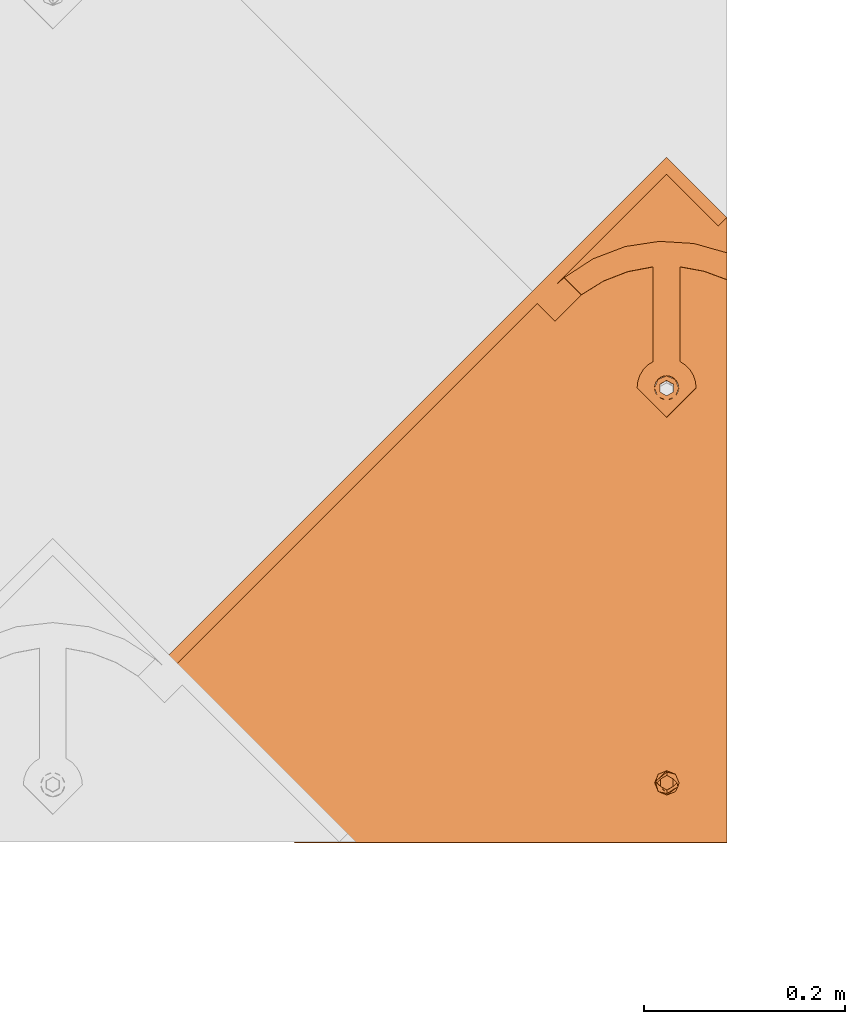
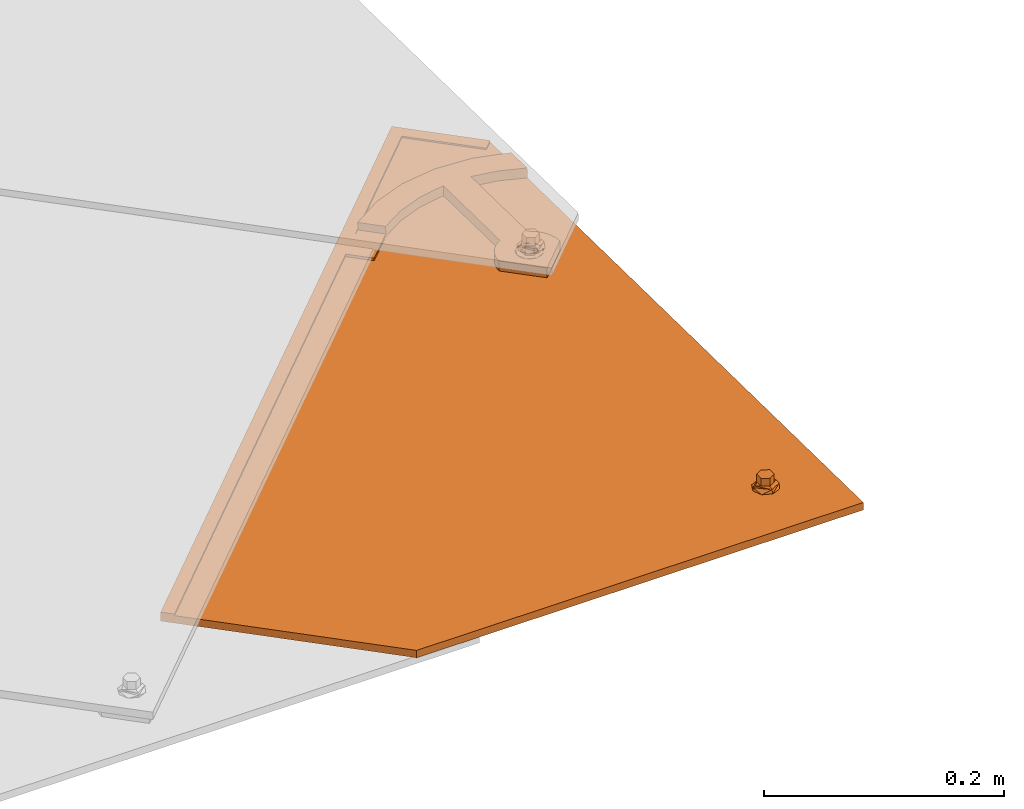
# One storey, part 105 of 133: 1 proxy.
"""IFC2X3 building model written with IfcOpenShell, lengths in millimetres."""

from ifc_helpers import new_model, entity, si_unit, converted_unit, derived_unit, direction, frame, origin, place, context, subcontext, project, spatial, faceted_brep, source, transform, mapped, material, material_list, type_object, type_shapes, element, save


model = new_model("IFC2X3")

# Units and contexts
model_context = context("Model", 3, precision=0.01, world=origin(), true_north=direction((6.12303176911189e-17, 1.0)))
body_context = subcontext(model_context, "Body", "Model", "MODEL_VIEW")
ifc_project = project(units=[si_unit("LENGTHUNIT", "METRE", prefix="MILLI"), si_unit("AREAUNIT", "SQUARE_METRE"), si_unit("VOLUMEUNIT", "CUBIC_METRE"), converted_unit("PLANEANGLEUNIT", "DEGREE", entity("IfcRatioMeasure", 0.0174532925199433), si_unit("PLANEANGLEUNIT", "RADIAN"), dimensions=[0, 0, 0, 0, 0, 0, 0]), si_unit("MASSUNIT", "GRAM", prefix="KILO"), derived_unit("MASSDENSITYUNIT", [(si_unit("MASSUNIT", "GRAM", prefix="KILO"), 1), (si_unit("LENGTHUNIT", "METRE"), -3)]), si_unit("TIMEUNIT", "SECOND"), si_unit("FREQUENCYUNIT", "HERTZ"), si_unit("THERMODYNAMICTEMPERATUREUNIT", "DEGREE_CELSIUS"), derived_unit("THERMALTRANSMITTANCEUNIT", [(si_unit("MASSUNIT", "GRAM", prefix="KILO"), 1), (si_unit("THERMODYNAMICTEMPERATUREUNIT", "KELVIN"), -1), (si_unit("TIMEUNIT", "SECOND"), -3)]), derived_unit("VOLUMETRICFLOWRATEUNIT", [(si_unit("LENGTHUNIT", "METRE"), 3), (si_unit("TIMEUNIT", "SECOND"), -1)]), si_unit("ELECTRICCURRENTUNIT", "AMPERE"), si_unit("ELECTRICVOLTAGEUNIT", "VOLT"), si_unit("POWERUNIT", "WATT"), si_unit("FORCEUNIT", "NEWTON", prefix="KILO"), si_unit("ILLUMINANCEUNIT", "LUX"), si_unit("LUMINOUSFLUXUNIT", "LUMEN"), si_unit("LUMINOUSINTENSITYUNIT", "CANDELA"), derived_unit("USERDEFINED", [(si_unit("MASSUNIT", "GRAM", prefix="KILO"), -1), (si_unit("LENGTHUNIT", "METRE"), -2), (si_unit("TIMEUNIT", "SECOND"), 3), (si_unit("LUMINOUSFLUXUNIT", "LUMEN"), 1)]), derived_unit("LINEARVELOCITYUNIT", [(si_unit("LENGTHUNIT", "METRE"), 1), (si_unit("TIMEUNIT", "SECOND"), -1)]), si_unit("PRESSUREUNIT", "PASCAL"), derived_unit("USERDEFINED", [(si_unit("LENGTHUNIT", "METRE"), -2), (si_unit("MASSUNIT", "GRAM", prefix="KILO"), 1), (si_unit("TIMEUNIT", "SECOND"), -2)])], contexts=[model_context])

# Site, building, storey
site_placement = place(None, origin())
site = spatial("IfcSite", under=ifc_project, at=site_placement, Name="Default", CompositionType="ELEMENT")
building_placement = place(site_placement, origin())
building = spatial("IfcBuilding", under=site, at=building_placement, CompositionType="ELEMENT")
storey_placement = place(building_placement, origin())
storey = spatial("IfcBuildingStorey", under=building, at=storey_placement, Name="Level 1", CompositionType="ELEMENT", Elevation=0.0)

# Proxy
ifc_material_1 = material(Name="Rubber - Sunstyle - Black")
ifc_material_2 = material(Name="Glass - Sunstyle - Tainted Black")
ifc_material_list_1 = material_list([ifc_material_1, ifc_material_2])
ifc_material_list_2 = material_list([ifc_material_1, ifc_material_2])
building_element_proxy_type = type_object("IfcBuildingElementProxyType", Name="Corner Bottom Big Right - Black", PredefinedType="NOTDEFINED", material=ifc_material_list_2)
shared_shape = source(origin(), body_context, "Body", "Brep", [
    faceted_brep([(0.270009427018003, -2.025866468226, -4.01619789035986), (-5.50419340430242, -5.35913660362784, -3.96037390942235), (-5.50419340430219, -4.99082751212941, 18.0314954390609), (0.270009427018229, -1.65755737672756, 17.9756714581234), (-5.50419340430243, -12.0256768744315, -3.84872594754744), (-5.5041934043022, -11.6573677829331, 18.1431434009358), (0.270009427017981, -15.3589470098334, -3.79290196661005), (0.270009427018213, -14.990637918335, 18.1989673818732), (6.04421225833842, -12.0256768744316, -3.84872594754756), (6.04421225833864, -11.6573677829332, 18.1431434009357), (6.04421225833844, -5.35913660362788, -3.96037390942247), (6.04421225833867, -4.99082751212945, 18.0314954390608), (-8.3336947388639, -16.9265954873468, 18.2313898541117), (0.27000942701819, -20.4898667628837, 18.2910657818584), (-11.8974656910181, -8.32409764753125, 18.0873194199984), (-8.33369473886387, 0.278400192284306, 17.9432489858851), (0.270009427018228, 3.84167146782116, 17.8835730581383), (8.87371359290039, 0.278400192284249, 17.9432489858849), (12.4374845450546, -8.32409764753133, 18.0873194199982), (8.87371359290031, -16.9265954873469, 18.2313898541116), (-11.1602134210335, -6.95050198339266, 20.4858706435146), (-9.50050407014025, -8.25322861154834, 22.3189355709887), (0.270009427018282, -0.940007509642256, 22.9603444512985), (0.27000942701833, 0.300490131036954, 22.3799978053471), (0.270009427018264, 2.4580409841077, 21.3706227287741), (-6.05323627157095, -4.59022324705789, 23.0214764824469), (-6.05323627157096, -11.8906547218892, 23.1437405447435), (0.270009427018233, -18.990246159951, 21.7298281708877), (0.270009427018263, -15.5408704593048, 23.2048725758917), (11.2551842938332, -12.0411541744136, 20.3827540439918), (10.3938597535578, -8.25726753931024, 22.077768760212), (6.59325512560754, -4.59022324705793, 23.0214764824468), (6.5932551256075, -11.8906547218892, 23.1437405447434), (-6.05323627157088, -11.7566262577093, 31.1466287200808), (0.270009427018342, -15.4068419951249, 31.207760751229), (0.270009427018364, -8.10641052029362, 31.0854966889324), (-6.05323627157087, -4.456194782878, 31.0243646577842), (6.59325512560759, -11.7566262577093, 31.1466287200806), (6.59325512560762, -4.45619478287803, 31.024364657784), (0.270009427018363, -0.805979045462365, 30.9632326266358), (0.270009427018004, -8.69240673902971, -3.90454992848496)], [[[0, 1, 2, 3]], [[1, 4, 5, 2]], [[4, 6, 7, 5]], [[6, 8, 9, 7]], [[8, 10, 11, 9]], [[10, 0, 3, 11]], [[12, 7, 13]], [[7, 12, 5]], [[14, 5, 12]], [[5, 14, 2]], [[15, 2, 14]], [[3, 2, 15]], [[15, 16, 3]], [[16, 17, 3]], [[11, 3, 17]], [[11, 17, 18]], [[9, 11, 18]], [[18, 19, 9]], [[7, 9, 19]], [[19, 13, 7]], [[15, 20, 16]], [[21, 22, 23, 24]], [[22, 21, 25]], [[20, 14, 12]], [[15, 14, 20]], [[25, 21, 26]], [[20, 24, 16]], [[12, 13, 27]], [[12, 27, 20]], [[21, 28, 26]], [[21, 27, 28]], [[20, 21, 24]], [[20, 27, 21]], [[19, 29, 13]], [[30, 23, 31]], [[30, 28, 27]], [[24, 23, 30]], [[29, 27, 13]], [[19, 18, 29]], [[29, 30, 27]], [[29, 17, 24]], [[24, 17, 16]], [[31, 32, 30]], [[23, 22, 31]], [[28, 30, 32]], [[29, 24, 30]], [[29, 18, 17]], [[33, 34, 35]], [[35, 36, 33]], [[34, 37, 35]], [[38, 35, 37]], [[35, 38, 39]], [[35, 39, 36]], [[40, 6, 4]], [[4, 1, 40]], [[1, 0, 40]], [[40, 8, 6]], [[0, 10, 40]], [[8, 40, 10]], [[22, 25, 36, 39]], [[25, 26, 33, 36]], [[26, 28, 34, 33]], [[28, 32, 37, 34]], [[32, 31, 38, 37]], [[31, 22, 39, 38]]]),
    faceted_brep([(-518.247351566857, 79.9143812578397, 14.9652572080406), (-518.247351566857, 79.9394990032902, 16.4650468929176), (-526.732038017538, 88.4241854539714, 16.3229495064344), (-526.732038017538, 88.399067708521, 14.8231598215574), (-0.00032251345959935, 614.98308737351, 6.00418773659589), (60.1037538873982, 554.895864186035, 7.01049921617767), (51.6190674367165, 546.411177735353, 7.15259660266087), (-0.000322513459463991, 598.016093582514, 6.28834266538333), (-0.000322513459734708, 615.00820511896, 7.50397742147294), (-0.000322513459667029, 598.041211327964, 7.78813235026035), (51.6190674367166, 546.436295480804, 8.65238628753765), (60.1037538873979, 554.920981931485, 8.51028890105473)], [[[0, 1, 2, 3]], [[0, 3, 4, 5, 6, 7]], [[3, 2, 8, 4]], [[2, 1, 9, 10, 11, 8]], [[1, 0, 7, 9]], [[6, 5, 11, 10]], [[4, 8, 11, 5]], [[9, 7, 6, 10]]]),
    faceted_brep([(0.0, 372.774440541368, 20.3195200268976), (0.0, 377.273809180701, 20.2441667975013), (-8.60370416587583, 376.337711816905, 20.2598440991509), (8.60370416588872, 376.337711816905, 20.2598440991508), (6.64022859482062, 381.107009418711, 20.1799702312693), (12.1674751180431, 384.940209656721, 20.1157736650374), (6.64022859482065, 388.773409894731, 20.0515770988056), (8.6037041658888, 393.542707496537, 19.9717032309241), (0.0, 392.606610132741, 19.9873805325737), (0.0, 397.105978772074, 19.9120273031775), (-8.60370416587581, 393.542707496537, 19.9717032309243), (-6.64022859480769, 388.773409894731, 20.0515770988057), (-12.1674751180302, 384.940209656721, 20.1157736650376), (-6.6402285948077, 381.107009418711, 20.1799702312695), (-6.6402282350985, 388.505487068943, 4.05382046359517), (0.0, 392.338687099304, 3.98962390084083), (-6.64022823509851, 380.839087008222, 4.18221358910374), (0.0, 377.005886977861, 4.24641015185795), (6.64022823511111, 380.839087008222, 4.1822135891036), (6.64022823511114, 388.505487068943, 4.05382046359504), (-8.603704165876, 376.069789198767, 4.26208746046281), (0.0, 372.50651792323, 4.32176338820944), (-12.1674751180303, 384.672287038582, 4.11801702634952), (-8.60370416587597, 393.274784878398, 3.97394659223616), (0.0, 396.838056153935, 3.91427066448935), (8.60370416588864, 393.274784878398, 3.97394659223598), (12.1674751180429, 384.672287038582, 4.11801702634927), (8.60370416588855, 376.069789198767, 4.26208746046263)], [[[0, 1, 2]], [[1, 0, 3]], [[3, 4, 1]], [[4, 3, 5]], [[6, 4, 5]], [[5, 7, 6]], [[7, 8, 6]], [[8, 7, 9]], [[8, 9, 10]], [[10, 11, 8]], [[12, 11, 10]], [[2, 13, 12]], [[12, 13, 11]], [[13, 2, 1]], [[8, 11, 14, 15]], [[11, 13, 16, 14]], [[13, 1, 17, 16]], [[1, 4, 18, 17]], [[4, 6, 19, 18]], [[6, 8, 15, 19]], [[20, 17, 21]], [[17, 20, 16]], [[22, 16, 20]], [[14, 16, 22]], [[23, 14, 22]], [[15, 14, 23]], [[23, 24, 15]], [[24, 25, 15]], [[19, 15, 25]], [[19, 25, 26]], [[26, 18, 19]], [[26, 27, 18]], [[17, 18, 27]], [[27, 21, 17]], [[24, 23, 10, 9]], [[10, 23, 22, 12]], [[20, 21, 0, 2]], [[20, 2, 12, 22]], [[21, 27, 3, 0]], [[3, 27, 26, 5]], [[25, 24, 9, 7]], [[25, 7, 5, 26]]]),
    faceted_brep([(-10.3923048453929, 390.78484910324, 9.75895037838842), (-8.48528137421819, 393.269782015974, 9.7173339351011), (-0.00032251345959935, 614.983087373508, 6.0041877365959), (-11.5911099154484, 387.891083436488, 9.8074137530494), (-6.0, 395.176538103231, 9.68540051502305), (-3.10582854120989, 396.37517508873, 9.6653263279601), (60.1037538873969, 554.895864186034, 7.01049921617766), (0.0, 396.784007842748, 9.65847939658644), (3.1058285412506, 396.37517508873, 9.6653263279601), (6.0, 395.176538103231, 9.68540051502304), (8.48528137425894, 393.269782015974, 9.7173339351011), (10.3923048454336, 390.784849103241, 9.75895037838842), (11.5911099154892, 387.891083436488, 9.8074137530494), (12.0, 384.785690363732, 9.8594213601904), (11.5911099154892, 381.680297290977, 9.9114289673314), (60.103753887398, -67.933460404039, 17.4413406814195), (10.3923048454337, 378.786531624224, 9.95989234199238), (6.58173564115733, -3.94243384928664, 16.369650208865), (8.48528137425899, 376.301598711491, 10.0015087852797), (5.31038666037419, -2.28581190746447, 16.3419059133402), (6.0, 374.394842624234, 10.0334422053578), (3.65353241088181, -1.01464118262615, 16.3206169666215), (3.10582854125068, 373.196205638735, 10.0535163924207), (1.72408477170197, -0.215549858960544, 16.3072341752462), (0.0, 372.787372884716, 10.0603633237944), (-0.346467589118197, 0.0570053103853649, 16.3026695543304), (-2.41701994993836, -0.215549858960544, 16.3072341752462), (-3.10582854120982, 373.196205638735, 10.0535163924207), (-4.34646758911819, -1.01464118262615, 16.3206169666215), (-6.0, 374.394842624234, 10.0334422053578), (-6.00332183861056, -2.28581190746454, 16.3419059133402), (-8.48528137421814, 376.301598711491, 10.0015087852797), (-370.355661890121, -67.9334604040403, 17.4413406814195), (-10.3923048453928, 378.786531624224, 9.95989234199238), (-526.732038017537, 88.3990677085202, 14.8231598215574), (-11.5911099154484, 381.680297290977, 9.9114289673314), (-12.0, 384.785690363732, 9.8594213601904), (-7.27467081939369, -3.94243384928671, 16.369650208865), (-8.07387419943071, -5.87161096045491, 16.4019591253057), (-8.34646758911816, -7.94187300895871, 16.4366308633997), (-8.0738741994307, -10.0121350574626, 16.4713026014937), (-7.27467081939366, -11.9413121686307, 16.5036115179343), (-6.00332183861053, -13.5979341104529, 16.5313558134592), (-4.34646758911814, -14.8691048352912, 16.5526447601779), (-2.41701994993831, -15.6681961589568, 16.5660275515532), (7.38093902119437, -5.87161096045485, 16.4019591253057), (7.65353241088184, -7.94187300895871, 16.4366308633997), (7.38093902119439, -10.0121350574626, 16.4713026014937), (6.58173564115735, -11.9413121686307, 16.5036115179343), (5.31038666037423, -13.5979341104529, 16.5313558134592), (3.65353241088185, -14.8691048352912, 16.5526447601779), (1.72408477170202, -15.6681961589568, 16.5660275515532), (-0.346467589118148, -15.9407513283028, 16.570592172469), (-370.355661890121, -68.0590491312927, 9.94239225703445), (-8.0738741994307, -10.1377237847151, 8.97235417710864), (-7.27467081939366, -12.0669008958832, 9.00466309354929), (-8.34646758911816, -8.06746173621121, 8.93768243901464), (-6.00332183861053, -13.7235228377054, 9.03240738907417), (-4.34646758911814, -14.9946935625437, 9.05369633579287), (60.103753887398, -68.0590491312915, 9.94239225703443), (-8.07387419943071, -5.99719968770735, 8.90301070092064), (-7.27467081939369, -4.06802257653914, 8.87070178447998), (-6.00332183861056, -2.41140063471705, 8.8429574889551), (-8.48528137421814, 376.176009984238, 2.50256036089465), (-10.3923048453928, 378.660942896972, 2.46094391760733), (-526.732038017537, 88.2734789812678, 7.32421139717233), (-11.5911099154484, 381.554708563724, 2.41248054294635), (-12.0, 384.66010163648, 2.36047293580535), (-11.5911099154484, 387.765494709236, 2.30846532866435), (-0.00032251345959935, 614.857498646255, -1.49476068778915), (-10.3923048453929, 390.659260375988, 2.26000195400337), (-8.48528137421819, 393.144193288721, 2.21838551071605), (-6.0, 395.050949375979, 2.18645209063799), (-3.10582854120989, 396.249586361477, 2.16637790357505), (60.1037538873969, 554.770275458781, -0.488449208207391), (0.0, 396.658419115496, 2.15953097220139), (3.1058285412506, 396.249586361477, 2.16637790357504), (6.0, 395.050949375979, 2.18645209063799), (8.48528137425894, 393.144193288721, 2.21838551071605), (10.3923048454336, 390.659260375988, 2.26000195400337), (11.5911099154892, 387.765494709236, 2.30846532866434), (12.0, 384.66010163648, 2.36047293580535), (11.5911099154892, 381.554708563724, 2.41248054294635), (-2.41701994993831, -15.7937848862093, 9.06707912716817), (-0.346467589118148, -16.0663400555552, 9.07164374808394), (1.72408477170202, -15.7937848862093, 9.06707912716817), (3.65353241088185, -14.9946935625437, 9.05369633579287), (5.31038666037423, -13.7235228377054, 9.03240738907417), (6.58173564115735, -12.0669008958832, 9.00466309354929), (7.38093902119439, -10.1377237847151, 8.97235417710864), (7.65353241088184, -8.06746173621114, 8.93768243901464), (7.38093902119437, -5.99719968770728, 8.90301070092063), (6.58173564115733, -4.06802257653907, 8.87070178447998), (10.3923048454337, 378.660942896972, 2.46094391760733), (-6.0, 374.269253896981, 2.5344937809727), (-4.34646758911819, -1.14022990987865, 8.8216685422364), (-3.10582854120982, 373.070616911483, 2.55456796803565), (-2.41701994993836, -0.341138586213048, 8.8082857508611), (0.0, 372.661784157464, 2.56141489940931), (-0.346467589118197, -0.0685834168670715, 8.80372112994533), (1.72408477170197, -0.341138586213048, 8.8082857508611), (3.10582854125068, 373.070616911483, 2.55456796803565), (3.65353241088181, -1.14022990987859, 8.8216685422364), (6.0, 374.269253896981, 2.5344937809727), (5.31038666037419, -2.41140063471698, 8.8429574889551), (8.48528137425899, 376.176009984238, 2.50256036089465)], [[[0, 1, 2]], [[3, 0, 2]], [[4, 2, 1]], [[2, 4, 5]], [[6, 2, 5]], [[7, 6, 5]], [[7, 8, 6]], [[8, 9, 6]], [[10, 6, 9]], [[6, 10, 11]], [[6, 11, 12]], [[12, 13, 6]], [[13, 14, 6]], [[6, 14, 15]], [[14, 16, 15]], [[17, 15, 16]], [[18, 17, 16]], [[17, 18, 19]], [[18, 20, 19]], [[21, 19, 20]], [[20, 22, 21]], [[23, 21, 22]], [[24, 23, 22]], [[23, 24, 25]], [[26, 25, 24]], [[24, 27, 26]], [[26, 27, 28]], [[29, 28, 27]], [[28, 29, 30]], [[29, 31, 30]], [[32, 30, 31]], [[33, 32, 31]], [[33, 34, 32]], [[33, 35, 34]], [[35, 36, 34]], [[36, 3, 34]], [[3, 2, 34]], [[30, 32, 37]], [[37, 32, 38]], [[32, 39, 38]], [[39, 32, 40]], [[40, 32, 41]], [[42, 41, 32]], [[42, 32, 43]], [[43, 32, 15]], [[15, 44, 43]], [[17, 45, 15]], [[45, 46, 15]], [[47, 15, 46]], [[47, 48, 15]], [[49, 15, 48]], [[15, 49, 50]], [[50, 51, 15]], [[51, 52, 15]], [[52, 44, 15]], [[53, 54, 55]], [[54, 53, 56]], [[53, 55, 57]], [[57, 58, 53]], [[53, 58, 59]], [[60, 56, 53]], [[61, 60, 53]], [[61, 53, 62]], [[63, 62, 53]], [[64, 63, 53]], [[65, 64, 53]], [[65, 66, 64]], [[66, 65, 67]], [[67, 65, 68]], [[65, 69, 68]], [[70, 68, 69]], [[71, 70, 69]], [[72, 71, 69]], [[69, 73, 72]], [[74, 73, 69]], [[75, 73, 74]], [[76, 75, 74]], [[77, 76, 74]], [[74, 78, 77]], [[78, 74, 79]], [[80, 79, 74]], [[80, 74, 81]], [[82, 81, 74]], [[82, 74, 59]], [[59, 58, 83]], [[84, 59, 83]], [[84, 85, 59]], [[85, 86, 59]], [[87, 59, 86]], [[59, 87, 88]], [[59, 88, 89]], [[89, 90, 59]], [[90, 91, 59]], [[91, 92, 59]], [[92, 93, 59]], [[93, 82, 59]], [[94, 62, 63]], [[94, 95, 62]], [[96, 95, 94]], [[97, 95, 96]], [[96, 98, 97]], [[99, 97, 98]], [[99, 98, 100]], [[101, 100, 98]], [[102, 100, 101]], [[103, 102, 101]], [[104, 102, 103]], [[103, 105, 104]], [[105, 92, 104]], [[105, 93, 92]], [[36, 67, 68, 3]], [[3, 68, 70, 0]], [[4, 1, 71, 72]], [[70, 71, 1, 0]], [[5, 4, 72, 73]], [[75, 7, 5, 73]], [[8, 76, 77, 9]], [[9, 77, 78, 10]], [[12, 11, 79, 80]], [[78, 79, 11, 10]], [[13, 12, 80, 81]], [[8, 7, 75, 76]], [[13, 81, 82, 14]], [[14, 82, 93, 16]], [[20, 18, 105, 103]], [[93, 105, 18, 16]], [[22, 20, 103, 101]], [[98, 24, 22, 101]], [[27, 96, 94, 29]], [[29, 94, 63, 31]], [[35, 33, 64, 66]], [[63, 64, 33, 31]], [[36, 35, 66, 67]], [[27, 24, 98, 96]], [[34, 2, 69, 65]], [[32, 34, 65, 53]], [[15, 32, 53, 59]], [[6, 15, 59, 74]], [[2, 6, 74, 69]], [[39, 56, 60, 38]], [[38, 60, 61, 37]], [[28, 30, 62, 95]], [[62, 30, 37, 61]], [[26, 28, 95, 97]], [[26, 97, 99, 25]], [[25, 99, 100, 23]], [[23, 100, 102, 21]], [[17, 19, 104, 92]], [[104, 19, 21, 102]], [[45, 17, 92, 91]], [[45, 91, 90, 46]], [[46, 90, 89, 47]], [[47, 89, 88, 48]], [[50, 49, 87, 86]], [[87, 49, 48, 88]], [[51, 50, 86, 85]], [[51, 85, 84, 52]], [[52, 84, 83, 44]], [[44, 83, 58, 43]], [[41, 42, 57, 55]], [[57, 42, 43, 58]], [[40, 41, 55, 54]], [[40, 54, 56, 39]]]),
    faceted_brep([(-114.2509690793, 483.839345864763, 10.7008696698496), (-128.946713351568, 469.147722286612, 10.9469178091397), (-111.269043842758, 451.472531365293, 11.2429332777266), (-84.944396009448, 477.793488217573, 10.8021227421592), (-102.027571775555, 494.874268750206, 10.5160621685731), (-108.279973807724, 489.512620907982, 10.6058564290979), (0.0, 355.735286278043, 10.3459433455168), (0.0, 373.122276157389, 10.0547545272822), (3.10582854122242, 373.531108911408, 10.0479075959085), (-3.10582854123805, 373.531108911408, 10.0479075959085), (6.0, 374.729745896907, 10.0278334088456), (8.48528137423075, 376.636501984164, 9.99589998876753), (29.3894280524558, 385.120593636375, 9.85381256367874), (-6.0, 374.729745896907, 10.0278334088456), (-8.4852813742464, 376.636501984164, 9.99589998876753), (-29.3894280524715, 385.120593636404, 9.85381256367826), (-10.3923048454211, 379.121434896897, 9.95428354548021), (-11.5911099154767, 382.01520056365, 9.90582017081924), (-12.0, 385.120593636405, 9.85381256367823), (-28.6795527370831, 391.540108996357, 9.74630165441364), (-11.5911099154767, 388.225986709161, 9.80180495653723), (-26.5842195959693, 397.649509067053, 9.64398440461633), (-10.3923048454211, 391.119752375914, 9.75334158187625), (-23.204650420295, 403.153659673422, 9.55180357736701), (-8.48528137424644, 393.604685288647, 9.71172513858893), (-18.704106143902, 407.786665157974, 9.47421226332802), (-6.0, 395.511441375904, 9.67979171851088), (-13.3000000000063, 411.324713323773, 9.41495875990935), (-3.10582854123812, 396.710078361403, 9.65971753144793), (0.0, 397.118911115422, 9.65287060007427), (13.2999999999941, 411.324713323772, 9.41495875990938), (-13.3000000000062, 505.643535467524, 7.83535317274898), (13.2999999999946, 505.643535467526, 7.83535317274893), (-7.21723712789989, 530.953901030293, 7.41146752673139), (-41.1626974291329, 525.784666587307, 7.49803934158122), (-38.7697427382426, 500.828655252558, 7.91599043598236), (-73.2491712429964, 513.560140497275, 7.70276973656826), (-62.9243331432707, 491.42502143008, 8.07347790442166), (-84.9431983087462, 477.752822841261, 8.30245321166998), (-102.027571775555, 494.832405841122, 8.01641269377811), (-108.279973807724, 489.470757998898, 8.10620695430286), (-114.2509690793, 483.79748295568, 8.20122019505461), (-111.269043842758, 451.430668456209, 8.74328380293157), (-128.946713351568, 469.105859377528, 8.44726833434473), (27.0541674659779, 528.834391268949, 7.44696404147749), (37.2599857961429, 501.252149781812, 7.90889795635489), (60.1037538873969, 519.521858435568, 7.60292579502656), (60.1037538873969, 492.795625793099, 8.05052369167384), (3.10582854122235, 396.710078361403, 9.65971753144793), (6.0, 395.511441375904, 9.67979171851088), (18.7041061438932, 407.786665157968, 9.47421226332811), (8.48528137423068, 393.604685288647, 9.71172513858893), (23.2046504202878, 403.153659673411, 9.55180357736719), (10.3923048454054, 391.119752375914, 9.75334158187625), (26.5842195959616, 397.649509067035, 9.64398440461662), (11.591109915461, 388.225986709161, 9.80180495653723), (28.6795527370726, 391.540108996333, 9.74630165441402), (12.0, 385.120593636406, 9.85381256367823), (11.591109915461, 382.01520056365, 9.90582017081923), (10.3923048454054, 379.121434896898, 9.95428354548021), (-38.7697427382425, 500.996106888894, 17.9145883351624), (-41.1626974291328, 525.952118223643, 17.4966372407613), (-73.2491712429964, 513.727592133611, 17.7013676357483), (-62.9243331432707, 491.592473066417, 18.0720758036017), (-13.3000000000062, 505.810987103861, 17.833951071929), (-7.21723712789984, 531.121352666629, 17.4100654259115), (13.2999999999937, 505.810987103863, 17.833951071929), (-13.3000000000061, 411.49216496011, 19.4135566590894), (13.2999999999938, 411.492164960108, 19.4135566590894), (0.0, 397.286362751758, 19.6514684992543), (-3.10582854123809, 396.877529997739, 19.658315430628), (-6.0, 395.678893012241, 19.6783896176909), (-18.7041061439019, 407.954116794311, 19.4728101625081), (-8.48528137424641, 393.772136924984, 19.710323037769), (-23.2046504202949, 403.321111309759, 19.5504014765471), (-10.3923048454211, 391.28720401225, 19.7519394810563), (-26.5842195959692, 397.816960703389, 19.6425823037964), (-11.5911099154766, 388.393438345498, 19.8004028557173), (-28.6795527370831, 391.707560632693, 19.7448995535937), (-12.0, 385.288045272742, 19.8524104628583), (-29.3894280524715, 385.28804527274, 19.8524104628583), (-11.5911099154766, 382.182652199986, 19.9044180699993), (-10.3923048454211, 379.288886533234, 19.9528814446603), (-8.48528137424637, 376.803953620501, 19.9944978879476), (0.0, 355.902737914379, 20.3445412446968), (-6.0, 374.897197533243, 20.0264313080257), (-3.10582854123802, 373.698560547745, 20.0465054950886), (0.0, 373.289727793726, 20.0533524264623), (3.10582854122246, 373.698560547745, 20.0465054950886), (6.0, 374.897197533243, 20.0264313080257), (8.48528137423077, 376.803953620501, 19.9944978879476), (29.3894280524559, 385.288045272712, 19.8524104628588), (10.3923048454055, 379.288886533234, 19.9528814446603), (11.591109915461, 382.182652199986, 19.9044180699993), (12.0, 385.288045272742, 19.8524104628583), (28.6795527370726, 391.70756063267, 19.7448995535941), (11.591109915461, 388.393438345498, 19.8004028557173), (26.5842195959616, 397.816960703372, 19.6425823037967), (10.3923048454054, 391.28720401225, 19.7519394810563), (23.2046504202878, 403.321111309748, 19.5504014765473), (8.48528137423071, 393.772136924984, 19.710323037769), (18.7041061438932, 407.954116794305, 19.4728101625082), (6.0, 395.678893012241, 19.6783896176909), (3.10582854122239, 396.877529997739, 19.658315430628), (27.0541674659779, 529.001842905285, 17.4455619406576), (37.259985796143, 501.419601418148, 17.907495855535), (60.1037538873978, 519.689310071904, 17.6015236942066), (60.1037538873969, 492.963077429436, 18.0491215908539), (-84.9443960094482, 477.919076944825, 18.3010711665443), (-102.027571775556, 494.999857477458, 18.0150105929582)], [[[0, 1, 2, 3, 4, 5]], [[6, 7, 8]], [[7, 6, 9]], [[6, 8, 10]], [[10, 11, 6]], [[6, 11, 12]], [[13, 9, 6]], [[14, 13, 6]], [[14, 6, 15]], [[15, 16, 14]], [[16, 15, 17]], [[17, 15, 18]], [[19, 18, 15]], [[20, 18, 19]], [[19, 21, 20]], [[20, 21, 22]], [[23, 22, 21]], [[23, 24, 22]], [[23, 25, 24]], [[25, 26, 24]], [[26, 25, 27]], [[28, 26, 27]], [[27, 29, 28]], [[30, 29, 27]], [[30, 27, 31]], [[30, 31, 32]], [[31, 33, 32]], [[33, 31, 34]], [[35, 34, 31]], [[34, 35, 36]], [[37, 36, 35]], [[37, 38, 36]], [[36, 38, 39]], [[40, 39, 38]], [[40, 38, 41]], [[38, 42, 41]], [[42, 43, 41]], [[32, 33, 44]], [[44, 45, 32]], [[45, 44, 46]], [[46, 47, 45]], [[48, 29, 30]], [[30, 49, 48]], [[49, 30, 50]], [[50, 51, 49]], [[50, 52, 51]], [[51, 52, 53]], [[54, 53, 52]], [[54, 55, 53]], [[56, 55, 54]], [[57, 55, 56]], [[12, 57, 56]], [[58, 57, 12]], [[12, 11, 59]], [[58, 12, 59]], [[1, 0, 41, 43]], [[2, 1, 43, 42]], [[4, 39, 40, 5]], [[40, 41, 0, 5]], [[3, 2, 42, 38]], [[60, 61, 62]], [[63, 60, 62]], [[64, 61, 60]], [[61, 64, 65]], [[66, 65, 64]], [[66, 64, 67]], [[66, 67, 68]], [[68, 67, 69]], [[67, 70, 69]], [[71, 70, 67]], [[71, 67, 72]], [[72, 73, 71]], [[73, 72, 74]], [[73, 74, 75]], [[74, 76, 75]], [[75, 76, 77]], [[78, 77, 76]], [[78, 79, 77]], [[78, 80, 79]], [[79, 80, 81]], [[82, 81, 80]], [[83, 82, 80]], [[83, 80, 84]], [[85, 83, 84]], [[86, 85, 84]], [[87, 86, 84]], [[87, 84, 88]], [[89, 88, 84]], [[89, 84, 90]], [[91, 90, 84]], [[92, 90, 91]], [[91, 93, 92]], [[93, 91, 94]], [[95, 94, 91]], [[95, 96, 94]], [[95, 97, 96]], [[96, 97, 98]], [[99, 98, 97]], [[98, 99, 100]], [[100, 99, 101]], [[101, 68, 102]], [[100, 101, 102]], [[102, 68, 103]], [[103, 68, 69]], [[66, 104, 65]], [[105, 104, 66]], [[105, 106, 104]], [[106, 105, 107]], [[108, 63, 62]], [[62, 109, 108]], [[66, 68, 30, 32]], [[95, 91, 12, 56]], [[97, 95, 56, 54]], [[54, 52, 99, 97]], [[101, 99, 52, 50]], [[68, 101, 50, 30]], [[91, 84, 6, 12]], [[84, 80, 15, 6]], [[72, 67, 27, 25]], [[74, 72, 25, 23]], [[23, 21, 76, 74]], [[78, 76, 21, 19]], [[80, 78, 19, 15]], [[67, 64, 31, 27]], [[104, 106, 46, 44]], [[65, 104, 44, 33]], [[33, 34, 61, 65]], [[62, 61, 34, 36]], [[4, 109, 62, 36, 39]], [[79, 18, 20, 77]], [[77, 20, 22, 75]], [[71, 73, 24, 26]], [[22, 24, 73, 75]], [[70, 71, 26, 28]], [[29, 69, 70, 28]], [[103, 48, 49, 102]], [[102, 49, 51, 100]], [[96, 98, 53, 55]], [[51, 53, 98, 100]], [[94, 96, 55, 57]], [[103, 69, 29, 48]], [[94, 57, 58, 93]], [[93, 58, 59, 92]], [[89, 90, 11, 10]], [[59, 11, 90, 92]], [[88, 89, 10, 8]], [[7, 87, 88, 8]], [[86, 9, 13, 85]], [[85, 13, 14, 83]], [[81, 82, 16, 17]], [[14, 16, 82, 83]], [[79, 81, 17, 18]], [[86, 87, 7, 9]], [[108, 109, 4, 3]], [[32, 45, 105, 66]], [[47, 107, 105, 45]], [[3, 37, 63, 108]], [[3, 38, 37]], [[35, 31, 64, 60]], [[37, 35, 60, 63]], [[106, 107, 47, 46]]]),
])
type_shapes(building_element_proxy_type, [shared_shape])
proxy_placement = place(storey_placement, frame((-15930.0622323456, 14589.8354296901, 0.0)))
element("IfcBuildingElementProxy", 1, at=proxy_placement, inside=storey, type_object=building_element_proxy_type, material=ifc_material_list_1, Name="Roofing_Panels_SunStyle_Tile_Corner-Bottom-Big-Right:Corner Bottom Big Right - Black", ObjectType="Roofing_Panels_SunStyle_Tile_Corner-Bottom-Big-Right:Corner Bottom Big Right - Black", context=body_context, shape_type="MappedRepresentation", body=[
    mapped(shared_shape, transform((0.0, 0.0, 0.0), scale=1.0)),
])

save(model, "model.ifc")
